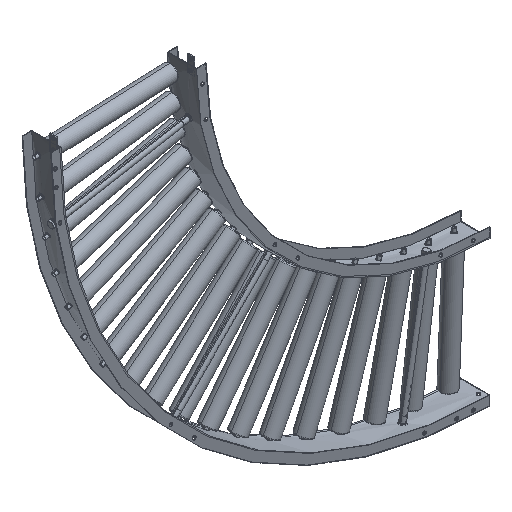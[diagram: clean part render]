
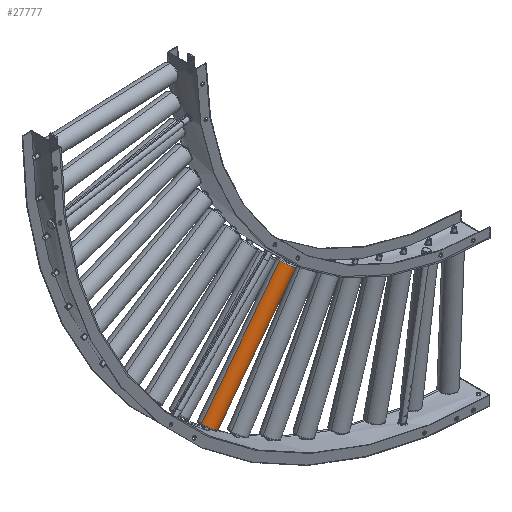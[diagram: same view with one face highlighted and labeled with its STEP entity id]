
A CAD part, isometric view. The second image highlights one B-rep face of the part: STEP entity #27777.
In plain terms, the highlighted cylindrical face has radius 24.3 mm (diameter 48.6 mm), a partial arc.
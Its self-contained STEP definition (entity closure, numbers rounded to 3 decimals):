
#974 = DIRECTION ( 'NONE',  ( 0.609, 0., 0.793 ) ) ;
#1541 = EDGE_CURVE ( 'NONE', #26807, #2938, #22336, .T. ) ;
#2067 = DIRECTION ( 'NONE',  ( -0.609, 0., -0.793 ) ) ;
#2595 = EDGE_LOOP ( 'NONE', ( #25418, #11993, #3365, #25400 ) ) ;
#2938 = VERTEX_POINT ( 'NONE', #12443 ) ;
#3205 = CARTESIAN_POINT ( 'NONE',  ( 303.287, 46.699, -9.038 ) ) ;
#3365 = ORIENTED_EDGE ( 'NONE', *, *, #9260, .T. ) ;
#3397 = DIRECTION ( 'NONE',  ( 0.793, 0., -0.609 ) ) ;
#4317 = CARTESIAN_POINT ( 'NONE',  ( -169.239, 46.699, -584.929 ) ) ;
#4616 = DIRECTION ( 'NONE',  ( 0.793, 0., -0.609 ) ) ;
#4743 = CIRCLE ( 'NONE', #12648, 24.3 ) ;
#7806 = EDGE_CURVE ( 'NONE', #12758, #2938, #4743, .T. ) ;
#9260 = EDGE_CURVE ( 'NONE', #30590, #12758, #21944, .T. ) ;
#9268 = CIRCLE ( 'NONE', #20635, 24.3 ) ;
#9347 = DIRECTION ( 'NONE',  ( -0.793, 0., 0.609 ) ) ;
#9614 = CARTESIAN_POINT ( 'NONE',  ( 89.891, 46.699, -287.141 ) ) ;
#10086 = CARTESIAN_POINT ( 'NONE',  ( 264.73, 46.699, 20.548 ) ) ;
#11653 = CARTESIAN_POINT ( 'NONE',  ( 70.613, 46.699, -272.348 ) ) ;
#11993 = ORIENTED_EDGE ( 'NONE', *, *, #28956, .T. ) ;
#12443 = CARTESIAN_POINT ( 'NONE',  ( 51.334, 46.699, -257.555 ) ) ;
#12648 = AXIS2_PLACEMENT_3D ( 'NONE', #11653, #2067, #9347 ) ;
#12758 = VERTEX_POINT ( 'NONE', #9614 ) ;
#13028 = DIRECTION ( 'NONE',  ( 0.609, 0., 0.793 ) ) ;
#16110 = CARTESIAN_POINT ( 'NONE',  ( -188.518, 46.699, -570.137 ) ) ;
#16618 = AXIS2_PLACEMENT_3D ( 'NONE', #22590, #17800, #3397 ) ;
#17439 = VECTOR ( 'NONE', #974, 1000. ) ;
#17800 = DIRECTION ( 'NONE',  ( 0.609, 0., 0.793 ) ) ;
#19802 = DIRECTION ( 'NONE',  ( 0.609, 0., 0.793 ) ) ;
#19967 = CYLINDRICAL_SURFACE ( 'NONE', #16618, 24.3 ) ;
#20635 = AXIS2_PLACEMENT_3D ( 'NONE', #4317, #13028, #4616 ) ;
#21629 = VECTOR ( 'NONE', #19802, 1000. ) ;
#21944 = LINE ( 'NONE', #3205, #21629 ) ;
#22336 = LINE ( 'NONE', #10086, #17439 ) ;
#22590 = CARTESIAN_POINT ( 'NONE',  ( 284.009, 46.699, 5.755 ) ) ;
#25400 = ORIENTED_EDGE ( 'NONE', *, *, #7806, .T. ) ;
#25418 = ORIENTED_EDGE ( 'NONE', *, *, #1541, .F. ) ;
#26807 = VERTEX_POINT ( 'NONE', #16110 ) ;
#27777 = ADVANCED_FACE ( 'NONE', ( #28925 ), #19967, .T. ) ;
#28925 = FACE_OUTER_BOUND ( 'NONE', #2595, .T. ) ;
#28956 = EDGE_CURVE ( 'NONE', #26807, #30590, #9268, .T. ) ;
#29391 = CARTESIAN_POINT ( 'NONE',  ( -149.961, 46.699, -599.722 ) ) ;
#30590 = VERTEX_POINT ( 'NONE', #29391 ) ;
